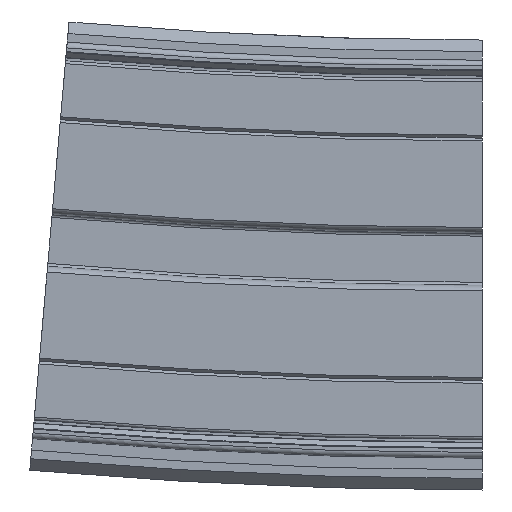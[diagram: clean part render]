
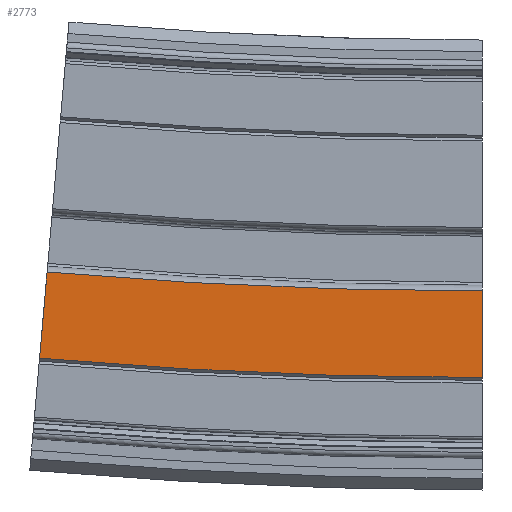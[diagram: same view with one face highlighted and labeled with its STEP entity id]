
A CAD part, left-side view. The second image highlights one B-rep face of the part: STEP entity #2773.
In plain terms, the highlighted planar face has unit normal (-1, 0, 0).
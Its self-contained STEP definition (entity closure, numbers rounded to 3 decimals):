
#267=CIRCLE('',#3020,865.5);
#268=CIRCLE('',#3022,880.5);
#442=FACE_OUTER_BOUND('',#596,.T.);
#596=EDGE_LOOP('',(#2171,#2172,#2173,#2174));
#773=LINE('',#9181,#979);
#774=LINE('',#9183,#980);
#979=VECTOR('',#3622,10.);
#980=VECTOR('',#3623,10.);
#1235=VERTEX_POINT('',#9174);
#1236=VERTEX_POINT('',#9176);
#1237=VERTEX_POINT('',#9180);
#1238=VERTEX_POINT('',#9182);
#1602=EDGE_CURVE('',#1235,#1236,#267,.T.);
#1603=EDGE_CURVE('',#1237,#1235,#773,.T.);
#1604=EDGE_CURVE('',#1238,#1236,#774,.T.);
#1605=EDGE_CURVE('',#1237,#1238,#268,.T.);
#2171=ORIENTED_EDGE('',*,*,#1603,.T.);
#2172=ORIENTED_EDGE('',*,*,#1602,.T.);
#2173=ORIENTED_EDGE('',*,*,#1604,.F.);
#2174=ORIENTED_EDGE('',*,*,#1605,.F.);
#2663=PLANE('',#3021);
#2773=ADVANCED_FACE('',(#442),#2663,.T.);
#3020=AXIS2_PLACEMENT_3D('',#9178,#3618,#3619);
#3021=AXIS2_PLACEMENT_3D('',#9179,#3620,#3621);
#3022=AXIS2_PLACEMENT_3D('',#9184,#3624,#3625);
#3618=DIRECTION('center_axis',(1.,0.,0.));
#3619=DIRECTION('ref_axis',(0.,0.,
-1.));
#3620=DIRECTION('center_axis',(-1.,0.,0.));
#3621=DIRECTION('ref_axis',(0.,0.,1.));
#3622=DIRECTION('',(0.,0.,1.));
#3623=DIRECTION('',(0.,-0.087,0.996));
#3624=DIRECTION('center_axis',(1.,0.,0.));
#3625=DIRECTION('ref_axis',(0.,0.,
-1.));
#9174=CARTESIAN_POINT('',(-32.,0.,-5.5));
#9176=CARTESIAN_POINT('',(-32.,75.433,-2.207));
#9178=CARTESIAN_POINT('Origin',(-32.,0.,
860.));
#9179=CARTESIAN_POINT('Origin',(-32.,0.,-20.5));
#9180=CARTESIAN_POINT('',(-32.,0.,-20.5));
#9181=CARTESIAN_POINT('',(-32.,0.,-20.5));
#9182=CARTESIAN_POINT('',(-32.,76.741,-17.149));
#9183=CARTESIAN_POINT('',(-32.,76.741,-17.149));
#9184=CARTESIAN_POINT('Origin',(-32.,0.,
860.));
